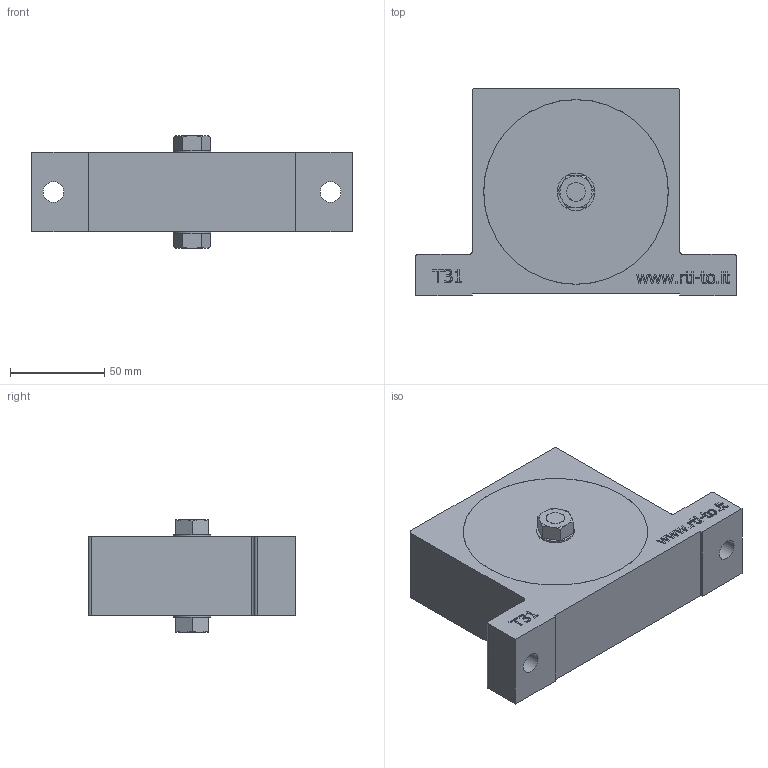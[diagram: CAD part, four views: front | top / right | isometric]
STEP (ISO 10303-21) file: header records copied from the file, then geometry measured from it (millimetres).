
FILE_DESCRIPTION((''),'2;1');
FILE_NAME('D:\UFFICIO TECNICO\PROGETTI PER PROTOTIPI\VIBRATORE - T31\VIBR. T31.stp','2015-09-14T13:06:47',('Piero'),(''),'Autodesk Inventor 2011','Autodesk Inventor 2011','');
FILE_SCHEMA(('CONFIG_CONTROL_DESIGN'));
Length unit declared in the file: millimetre
Products named in the file (1): T31
Bounding box: 170 x 110 x 60 mm (x, y, z)
Volume: 334735.4 mm3; surface area: 82404.4 mm2
Topology: 1 solids, 1 shells, 280 faces, 728 edges, 481 vertices
Faces by surface type: plane 196, bspline 47, cylinder 21, cone 16
Full cylindrical faces by diameter (mm): 3 x1, 10 x3, 11 x2, 14.95 x2, 20 x2, 91.5 x1, 97.9 x2, 98 x2
Entity records: 8681 total; most frequent: CARTESIAN_POINT 2198, ORIENTED_EDGE 1408, DIRECTION 1106, EDGE_CURVE 704, VECTOR 530, LINE 530, VERTEX_POINT 476, EDGE_LOOP 336
